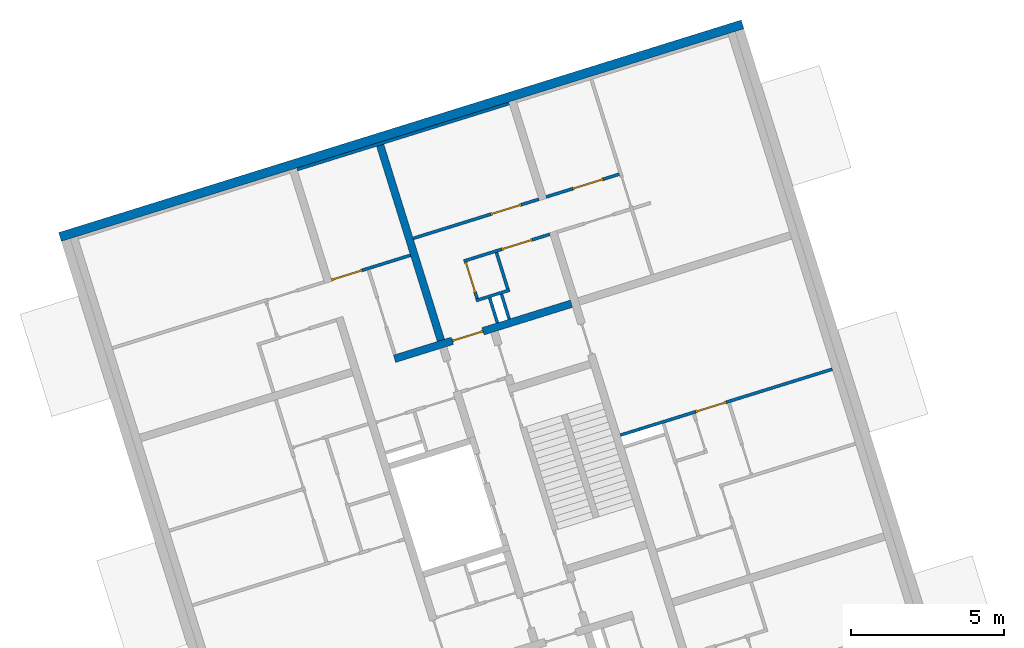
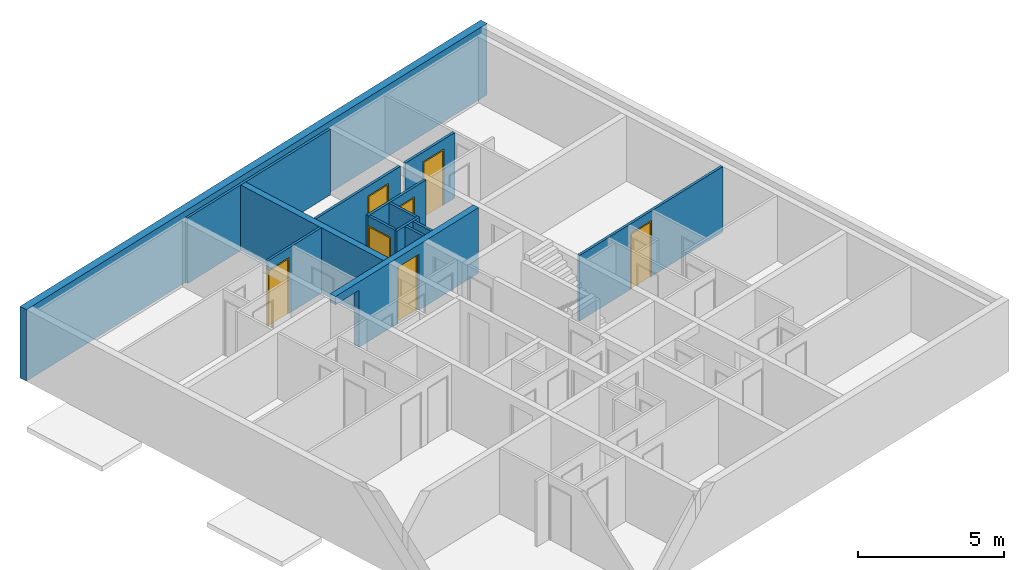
# One storey, part 6 of 9: 14 walls, 7 doors, 9 openings.
"""IFC4 building model written with IfcOpenShell, lengths in metres."""

import ifcopenshell
import ifcopenshell.guid

model = None  # the IFC model being written
_history = None  # IfcOwnerHistory: only IFC2X3 demands one
_inside = {}  # id of a spatial element -> (the spatial element, [elements in it])
_under = {}  # id of a project, library or spatial element -> (it, [spatial elements below it])
_declared = {}  # id of a project -> (the project, [libraries it declares])
_typed = {}  # id of a type object -> (the type object, [elements of that type])
_made_of = {}  # id of a material, layer set ... -> (it, [elements and type objects made of it])


def new_model(schema):
    """Start an empty IFC model of exactly this schema.

    Asked for "IFC4X3", IfcOpenShell would pick the latest addendum, in which some entities
    have other attributes; the version numbers below select the first issue.
    IFC2X3 requires an IfcOwnerHistory on every rooted entity: one is made here for all.
    """
    global model, _history
    if schema == "IFC4X3":
        model = ifcopenshell.file(schema_version=(4, 3, 0, 0))
    else:
        model = ifcopenshell.file(schema=schema)
    _inside.clear()
    _under.clear()
    _declared.clear()
    _typed.clear()
    _made_of.clear()
    _history = None
    if model.schema == "IFC2X3":
        org = make("IfcOrganization", Name="unknown")
        user = make(
            "IfcPersonAndOrganization",
            ThePerson=make("IfcPerson", FamilyName="unknown"),
            TheOrganization=org,
        )
        app = make(
            "IfcApplication",
            ApplicationDeveloper=org,
            Version="unknown",
            ApplicationFullName="unknown",
            ApplicationIdentifier="unknown",
        )
        _history = make(
            "IfcOwnerHistory",
            OwningUser=user,
            OwningApplication=app,
            ChangeAction="ADDED",
            CreationDate=0,
        )
    return model


def make(cls, **values):
    """One entity of the class cls with the attributes given. An attribute that is None is left unset."""
    return model.create_entity(
        cls, **{name: value for name, value in values.items() if value is not None}
    )


def entity(cls, *values):
    """Any entity or typed value of the class cls, its attributes in the order of the schema. None: left unset."""
    e = model.create_entity(cls)
    for i, value in enumerate(values):
        if value is not None:
            e[i] = value
    return e


def rooted(cls, **values):
    """An entity with a GlobalId (a new one), such as an element, a storey or a relation."""
    return make(cls, GlobalId=ifcopenshell.guid.new(), OwnerHistory=_history, **values)


def si_unit(unit_type, name, prefix=None):
    """IfcSIUnit, for example si_unit("LENGTHUNIT", "METRE", prefix="MILLI")."""
    return make("IfcSIUnit", UnitType=unit_type, Prefix=prefix, Name=name)


def converted_unit(unit_type, name, factor, base, dimensions=None, offset=None):
    """IfcConversionBasedUnit, such as the inch: factor (a typed value) times the base unit."""
    return make(
        "IfcConversionBasedUnit"
        if offset is None
        else "IfcConversionBasedUnitWithOffset",
        ConversionOffset=offset,
        Dimensions=None
        if dimensions is None
        else entity("IfcDimensionalExponents", *dimensions),
        UnitType=unit_type,
        Name=name,
        ConversionFactor=make(
            "IfcMeasureWithUnit", ValueComponent=factor, UnitComponent=base
        ),
    )


def assignment(units):
    """IfcUnitAssignment: the units of a project."""
    return None if units is None else make("IfcUnitAssignment", Units=units)


def point(xyz):
    """IfcCartesianPoint."""
    return None if xyz is None else make("IfcCartesianPoint", Coordinates=xyz)


def direction(xyz):
    """IfcDirection."""
    return None if xyz is None else make("IfcDirection", DirectionRatios=xyz)


def frame(location, z_axis=None, x_axis=None):
    """IfcAxis2Placement3D, a coordinate frame: its origin and axes. An axis left out is left unset."""
    return make(
        "IfcAxis2Placement3D",
        Location=point(location),
        Axis=direction(z_axis),
        RefDirection=direction(x_axis),
    )


def origin():
    """The frame at (0, 0, 0) with its axes left unset."""
    return frame((0.0, 0.0, 0.0))


def place(relative_to, where):
    """IfcLocalPlacement: puts the frame where relative to a parent placement (None: the world)."""
    return make(
        "IfcLocalPlacement", PlacementRelTo=relative_to, RelativePlacement=where
    )


def context(
    kind, dimensions, precision=None, world=None, true_north=None, identifier=None
):
    """IfcGeometricRepresentationContext, for example the 3D "Model" context."""
    return make(
        "IfcGeometricRepresentationContext",
        ContextIdentifier=identifier,
        ContextType=kind,
        CoordinateSpaceDimension=dimensions,
        Precision=precision,
        WorldCoordinateSystem=world,
        TrueNorth=true_north,
    )


def subcontext(parent, identifier, kind, view, scale=None):
    """IfcGeometricRepresentationSubContext, for example "Body" below "Model"."""
    return make(
        "IfcGeometricRepresentationSubContext",
        ContextIdentifier=identifier,
        ContextType=kind,
        ParentContext=parent,
        TargetScale=scale,
        TargetView=view,
    )


def project(units=None, contexts=None):
    """IfcProject with its units and contexts."""
    return rooted(
        "IfcProject",
        Name="project",
        RepresentationContexts=contexts,
        UnitsInContext=assignment(units),
    )


def spatial(cls, under=None, at=None, **own):
    """A site, building, storey or space (cls), placed at a placement, below another one or the project."""
    s = rooted(cls, ObjectPlacement=at, **own)
    if under is not None:
        _under.setdefault(under.id(), (under, []))[1].append(s)
    return s


def point_list(points):
    """IfcCartesianPointList2D or 3D."""
    cls = (
        "IfcCartesianPointList2D" if len(points[0]) == 2 else "IfcCartesianPointList3D"
    )
    return make(cls, CoordList=points)


def indexed_curve(points, segments=None, self_intersect=None):
    """IfcIndexedPolyCurve: lines and arcs through numbered points (the first is 1)."""
    return make(
        "IfcIndexedPolyCurve",
        Points=point_list(points),
        Segments=segments,
        SelfIntersect=self_intersect,
    )


def outline(outer, holes=None, kind="AREA"):
    """IfcArbitraryClosedProfileDef: a profile drawn as a closed curve; with holes, ...WithVoids."""
    if holes is None:
        return make("IfcArbitraryClosedProfileDef", ProfileType=kind, OuterCurve=outer)
    return make(
        "IfcArbitraryProfileDefWithVoids",
        ProfileType=kind,
        OuterCurve=outer,
        InnerCurves=holes,
    )


def extrude(swept, where, along, depth):
    """IfcExtrudedAreaSolid: the profile swept, set in the frame where, extruded along a direction by depth."""
    return make(
        "IfcExtrudedAreaSolid",
        SweptArea=swept,
        Position=where,
        ExtrudedDirection=direction(along),
        Depth=depth,
    )


def polygons(points, faces, closed=None, point_numbers=None):
    """IfcPolygonalFaceSet: a face is its outer loop, then its inner loops; points numbered from 1."""
    made = []
    for loops in faces:
        if len(loops) == 1:
            made.append(make("IfcIndexedPolygonalFace", CoordIndex=loops[0]))
        else:
            made.append(
                make(
                    "IfcIndexedPolygonalFaceWithVoids",
                    CoordIndex=loops[0],
                    InnerCoordIndices=loops[1:],
                )
            )
    return make(
        "IfcPolygonalFaceSet",
        Coordinates=point_list(points),
        Closed=closed,
        Faces=made,
        PnIndex=point_numbers,
    )


def shape(context_of_items, identifier, shape_type, items):
    """IfcShapeRepresentation: the items that make up one representation, for example the "Body"."""
    return make(
        "IfcShapeRepresentation",
        ContextOfItems=context_of_items,
        RepresentationIdentifier=identifier,
        RepresentationType=shape_type,
        Items=items,
    )


def source(mapping_origin, context_of_items, identifier, shape_type, items):
    """IfcRepresentationMap: a shape defined once, which mapped items show again and again."""
    return make(
        "IfcRepresentationMap",
        MappingOrigin=mapping_origin,
        MappedRepresentation=shape(context_of_items, identifier, shape_type, items),
    )


def transform(
    local_origin,
    x_axis=None,
    y_axis=None,
    z_axis=None,
    scale=None,
    scale2=None,
    scale3=None,
    uniform=True,
):
    """IfcCartesianTransformationOperator3D, or its non-uniform kind. x_axis, y_axis, z_axis: its Axis1, 2, 3."""
    if uniform:
        return make(
            "IfcCartesianTransformationOperator3D",
            Axis1=direction(x_axis),
            Axis2=direction(y_axis),
            LocalOrigin=point(local_origin),
            Scale=scale,
            Axis3=direction(z_axis),
        )
    return make(
        "IfcCartesianTransformationOperator3DnonUniform",
        Axis1=direction(x_axis),
        Axis2=direction(y_axis),
        LocalOrigin=point(local_origin),
        Scale=scale,
        Axis3=direction(z_axis),
        Scale2=scale2,
        Scale3=scale3,
    )


def mapped(mapping_source, mapping_target):
    """IfcMappedItem: shows the shape of a source again, moved by a transform."""
    return make(
        "IfcMappedItem", MappingSource=mapping_source, MappingTarget=mapping_target
    )


def material(Name=None, Category=None):
    """IfcMaterial."""
    return make("IfcMaterial", Name=Name, Category=Category)


def constituent(of_material, Name=None, Category=None, fraction=None):
    """IfcMaterialConstituent: one of the materials an element consists of."""
    return make(
        "IfcMaterialConstituent",
        Name=Name,
        Material=of_material,
        Fraction=fraction,
        Category=Category,
    )


def constituent_set(constituents=None, Name=None):
    """IfcMaterialConstituentSet."""
    return make(
        "IfcMaterialConstituentSet", Name=Name, MaterialConstituents=constituents
    )


def made_of(thing, what):
    """Note that an element or type object is made of a material, layer set ...; save() writes the relation."""
    if what is not None:
        _made_of.setdefault(what.id(), (what, []))[1].append(thing)
    return thing


def type_object(cls, material=None, **own):
    """A type object (cls), such as IfcWallType, which elements share."""
    return made_of(rooted(cls, **own), material)


def type_shapes(of_type, sources):
    """Give a type object the sources (RepresentationMaps) that its elements show as mapped items."""
    of_type.RepresentationMaps = sources


def element(
    cls,
    number,
    at=None,
    inside=None,
    cuts=None,
    type_object=None,
    material=None,
    context=None,
    identifier="Body",
    shape_type=None,
    held_by="IfcProductDefinitionShape",
    body=None,
    shapes=None,
    **own,
):
    """One element of the class cls, such as IfcWall. Its Tag is "e" and its number.

    at: its placement. inside: the storey or other place that contains it. cuts: it is an
    opening in that element (IfcRelVoidsElement). A single representation is given by context,
    identifier, shape_type and body (its items); several are given by shapes. held_by: the class
    of the entity that holds the representations. save() writes the other relations.
    """
    e = rooted(cls, Tag="e%d" % number, ObjectPlacement=at, **own)
    if body is not None:
        shapes = [shape(context, identifier, shape_type, body)]
    if shapes is not None:
        e.Representation = make(held_by, Representations=shapes)
    if inside is not None:
        _inside.setdefault(inside.id(), (inside, []))[1].append(e)
    if cuts is not None:
        rooted(
            "IfcRelVoidsElement", RelatingBuildingElement=cuts, RelatedOpeningElement=e
        )
    if type_object is not None:
        _typed.setdefault(type_object.id(), (type_object, []))[1].append(e)
    return made_of(e, material)


def fill(opening, filler):
    """IfcRelFillsElement: the door or window that sits in an opening."""
    return rooted(
        "IfcRelFillsElement",
        RelatingOpeningElement=opening,
        RelatedBuildingElement=filler,
    )


def aggregate(whole, parts):
    """IfcRelAggregates: a whole, such as a stair, and the parts it consists of."""
    return rooted("IfcRelAggregates", RelatingObject=whole, RelatedObjects=parts)


def save(model, path):
    """Write the relations noted so far, then the file.

    IfcRelAggregates (storeys below a building ...), IfcRelContainedInSpatialStructure (elements
    in a storey), IfcRelDefinesByType, IfcRelAssociatesMaterial and IfcRelDeclares: one each for
    every whole, place, type object, material and project.
    """
    for whole, parts in _under.values():
        aggregate(whole, parts)
    for where, things in _inside.values():
        rooted(
            "IfcRelContainedInSpatialStructure",
            RelatedElements=things,
            RelatingStructure=where,
        )
    for kind, things in _typed.values():
        rooted("IfcRelDefinesByType", RelatedObjects=things, RelatingType=kind)
    for what, things in _made_of.values():
        rooted("IfcRelAssociatesMaterial", RelatedObjects=things, RelatingMaterial=what)
    for by, libraries in _declared.values():
        rooted("IfcRelDeclares", RelatingContext=by, RelatedDefinitions=libraries)
    model.write(path)


model = new_model("IFC4")

# Units and contexts
model_context = context("Model", 3, precision=1e-05, world=origin(), true_north=direction((6.12323399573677e-17, 1.0)))
body_context = subcontext(model_context, "Body", "Model", "MODEL_VIEW")
ifc_project = project(units=[si_unit("LENGTHUNIT", "METRE"), si_unit("AREAUNIT", "SQUARE_METRE"), si_unit("VOLUMEUNIT", "CUBIC_METRE"), converted_unit("PLANEANGLEUNIT", "DEGREE", entity("IfcPlaneAngleMeasure", 0.0174532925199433), si_unit("PLANEANGLEUNIT", "RADIAN"), dimensions=[0, 0, 0, 0, 0, 0, 0])], contexts=[model_context])

# Site, building, storey
site_placement = place(None, frame((13.1347999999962, 11.9886000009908, 0.0), z_axis=(0.0, 0.0, 1.0), x_axis=(0.954770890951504, 0.297342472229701, 0.0)))
site = spatial("IfcSite", under=ifc_project, at=site_placement, Name="Schiehaven", CompositionType="ELEMENT")
building_placement = place(site_placement, origin())
building = spatial("IfcBuilding", under=site, at=building_placement, Name="VORM huis", CompositionType="ELEMENT")
storey_placement = place(building_placement, frame((0.0, 0.0, 18.9)))
storey = spatial("IfcBuildingStorey", under=building, at=storey_placement, Name="06 zesde verdieping", CompositionType="ELEMENT", Elevation=18.9)

# Wall, openings, door
ifc_material_1 = material(Name="beton_gewapend_ihw", Category="Miscellaneous")
wall_type_1 = type_object("IfcWallType", Name="Basic Wall:28_WA_skelet_wand 250mm_gen", PredefinedType="STANDARD")
wall_1_placement = place(storey_placement, frame((12.6250000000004, 22.1999999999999, 0.0)))
wall_1 = element("IfcWall", 1, at=wall_1_placement, inside=storey, type_object=wall_type_1, material=ifc_material_1, Name="Constructieve wand", ObjectType="Wand", PredefinedType="NOTDEFINED", context=body_context, shape_type="Tessellation", body=[
    polygons([(4.225, -0.124999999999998, 2.34999999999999), (4.225, -0.124999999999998, 0.0), (7.25, -0.124999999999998, 0.0), (7.25, -0.124999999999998, 2.75), (-9.32382171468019e-16, -0.124999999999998, 2.75), (1.23335208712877e-15, -0.124999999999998, 2.4), (1.2, -0.124999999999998, 2.4), (1.2, -0.124999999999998, 0.0), (3.175, -0.124999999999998, 0.0), (3.175, -0.124999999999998, 2.34999999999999), (7.25, 0.125000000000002, 0.0), (4.225, 0.125000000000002, 0.0), (4.225, 0.125000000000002, 2.34999999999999), (3.175, 0.125000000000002, 2.34999999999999), (3.175, 0.125000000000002, 0.0), (1.2, 0.124999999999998, 0.0), (1.2, 0.125000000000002, 2.4), (1.38467104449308e-15, 0.125000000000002, 2.4), (1.38467104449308e-15, 0.125000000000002, 2.75), (7.25, 0.125000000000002, 2.75)], [[[1, 2, 3, 4, 5, 6, 7, 8, 9, 10]], [[11, 12, 13, 14, 15, 16, 17, 18, 19, 20]], [[9, 8, 16, 15]], [[5, 4, 20, 19]], [[5, 19, 18, 6]], [[15, 14, 10, 9]], [[13, 12, 2, 1]], [[14, 13, 1, 10]], [[7, 17, 16, 8]], [[17, 7, 6, 18]], [[4, 3, 11, 20]], [[3, 2, 12, 11]]], closed=True),
])
opening_1_placement = place(wall_1_placement, origin())
element("IfcOpeningElement", 2, at=opening_1_placement, cuts=wall_1, Name="Constructieve wand", PredefinedType="OPENING", context=body_context, shape_type="SweptSolid", body=[
    extrude(outline(indexed_curve([(-1.2, -0.6), (1.2, -0.6), (1.2, 0.6), (-1.2, 0.6), (-1.2, -0.6)], self_intersect=False)), frame((0.599999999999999, -0.125000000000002, 1.2), z_axis=(0.0, 1.0, 0.0), x_axis=(0.0, 0.0, -1.0)), (0.0, 0.0, 1.0), 0.250000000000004),
])
opening_2_placement = place(wall_1_placement, frame((4.22500000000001, 0.124999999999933, 0.0)))
opening_2 = element("IfcOpeningElement", 3, at=opening_2_placement, cuts=wall_1, Name="Woningtoegangsdeur", PredefinedType="OPENING", context=body_context, shape_type="SweptSolid", body=[
    extrude(outline(indexed_curve([(2.34999999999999, 1.05), (0.0, 1.05), (0.0, 1.08286712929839e-15), (2.34999999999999, 1.08286712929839e-15), (2.34999999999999, 1.05)], self_intersect=False)), frame((0.0, 0.0, 0.0), z_axis=(0.0, -1.0, 0.0), x_axis=(0.0, 0.0, 1.0)), (0.0, 0.0, 1.0), 0.25),
])
ifc_material_2 = material(Name="PD_a_binnenwandopeningen", Category="Miscellaneous")
ifc_constituent_1 = constituent(ifc_material_2, Name="PD_a_binnenwandopeningen", Category="Miscellaneous")
ifc_material_3 = material(Name="metaal_aluminium_ntb", Category="Miscellaneous")
ifc_constituent_2 = constituent(ifc_material_3, Name="metaal_aluminium_ntb", Category="Miscellaneous")
ifc_constituent_set_1 = constituent_set(constituents=[ifc_constituent_1, ifc_constituent_2])
door_type_1 = type_object("IfcDoorType", Name="32_DO_binnendeur enkel:woningtoegangsdeur", OperationType="REVOLVING", PredefinedType="DOOR")
shared_shape_1 = source(origin(), body_context, "Body", "SweptSolid", [
    extrude(outline(indexed_curve([(-1.16249999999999, -0.525000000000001), (1.18749999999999, -0.525), (1.18749999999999, 0.525000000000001), (-1.16249999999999, 0.525000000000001), (-1.16249999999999, 0.475), (1.13749999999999, 0.475), (1.13749999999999, -0.475), (-1.16249999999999, -0.475), (-1.16249999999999, -0.525000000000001)], self_intersect=False)), frame((0.525000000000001, 0.0749999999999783, 1.16249999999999), z_axis=(0.0, 1.0, 0.0), x_axis=(0.0, 0.0, 1.0)), (0.0, 0.0, 1.0), 0.1),
    extrude(outline(indexed_curve([(-0.025, -0.475), (0.025, -0.475), (0.025, 0.475), (-0.025, 0.475), (-0.025, -0.475)], self_intersect=False)), frame((0.525000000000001, 0.12499999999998, 0.0), z_axis=(0.0, 0.0, 1.0), x_axis=(0.0, 1.0, 0.0)), (0.0, 0.0, 1.0), 2.29999999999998),
])
door_1_placement = place(opening_2_placement, frame((0.0, 0.0, 0.0), z_axis=(0.0, 0.0, 1.0), x_axis=(-1.0, 0.0, 0.0)))
door_1 = element("IfcDoor", 4, at=door_1_placement, inside=storey, type_object=door_type_1, material=ifc_constituent_set_1, Name="Woningtoegangsdeur", ObjectType="Deur", OperationType="REVOLVING", OverallHeight=2.34999999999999, OverallWidth=1.05, PredefinedType="DOOR", context=body_context, shape_type="MappedRepresentation", body=[
    mapped(shared_shape_1, transform((0.0, 0.0, 0.0), scale=1.0)),
])
fill(opening_2, door_1)

# Walls
ifc_material_4 = material(Name="ntb_ntb_ntb", Category="Miscellaneous")
wall_type_2 = type_object("IfcWallType", Name="Basic Wall:21_WA_gevel_binnenspouwwand 100mm_gen", PredefinedType="STANDARD")
wall_2_placement = place(storey_placement, frame((19.875, 29.05, 0.0), z_axis=(0.0, 0.0, 1.0), x_axis=(-1.0, 0.0, 0.0)))
element("IfcWall", 5, at=wall_2_placement, inside=storey, type_object=wall_type_2, material=ifc_material_4, Name="Binnenspouwblad", ObjectType="Wand", PredefinedType="NOTDEFINED", context=body_context, shape_type="SweptSolid", body=[
    extrude(outline(indexed_curve([(7.24999999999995, 0.0500000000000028), (-8.07179175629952e-18, 0.0500000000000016), (8.07179175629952e-18, -0.0500000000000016), (7.24999999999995, -0.0500000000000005), (7.24999999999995, 0.0500000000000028)], self_intersect=False)), origin(), (0.0, 0.0, 1.0), 2.75),
])
wall_type_3 = type_object("IfcWallType", Name="Basic Wall: 300mm_gen", PredefinedType="STANDARD")
wall_3_placement = place(storey_placement, frame((4.57500000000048, 29.25, 0.0)))
element("IfcWall", 6, at=wall_3_placement, inside=storey, type_object=wall_type_3, material=ifc_material_4, Name="Gevelwand", ObjectType="Wand", PredefinedType="NOTDEFINED", context=body_context, shape_type="SweptSolid", body=[
    extrude(outline(indexed_curve([(23.35, 0.149999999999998), (-1.57429718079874e-16, 0.150000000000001), (1.57429718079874e-16, -0.150000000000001), (23.35, -0.150000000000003), (23.35, 0.149999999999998)], self_intersect=False)), origin(), (0.0, 0.0, 1.0), 3.0),
])
wall_type_4 = type_object("IfcWallType", Name="Basic Wall:22_WA_afbouw_binnenwand 250mm_gen", PredefinedType="STANDARD")
wall_4_placement = place(storey_placement, frame((15.4500000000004, 22.3249999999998, 0.0), z_axis=(0.0, 0.0, 1.0), x_axis=(0.0, 1.0, 0.0)))
element("IfcWall", 7, at=wall_4_placement, inside=storey, type_object=wall_type_4, material=ifc_material_4, Name="Binnenwand", ObjectType="Wand", PredefinedType="NOTDEFINED", context=body_context, shape_type="SweptSolid", body=[
    extrude(outline(indexed_curve([(6.67500000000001, 0.124999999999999), (2.02524027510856e-15, 0.125), (-2.02524027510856e-15, -0.125), (6.67500000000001, -0.125), (6.67500000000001, 0.124999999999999)], self_intersect=False)), origin(), (0.0, 0.0, 1.0), 2.75),
])

# Wall, opening, door
wall_type_5 = type_object("IfcWallType", Name="Basic Wall:22_WA_afbouw_binnenwand 100mm_gen", PredefinedType="STANDARD")
wall_5_placement = place(storey_placement, frame((19.8750000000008, 25.7750000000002, 0.0), z_axis=(0.0, 0.0, 1.0), x_axis=(-1.0, 0.0, 0.0)))
wall_5 = element("IfcWall", 8, at=wall_5_placement, inside=storey, type_object=wall_type_5, material=ifc_material_4, Name="Binnenwand", ObjectType="Wand", PredefinedType="NOTDEFINED", context=body_context, shape_type="Tessellation", body=[
    polygons([(1.41600119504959e-15, -0.0499999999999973, 2.16573425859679e-15), (0.599999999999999, -0.0499999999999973, 2.16573425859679e-15), (0.600000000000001, -0.0499999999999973, 2.34999999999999), (1.65, -0.0500000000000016, 2.34999999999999), (1.65, -0.0500000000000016, 2.16573425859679e-15), (4.30000000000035, -0.0500000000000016, 2.16573425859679e-15), (4.30000000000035, -0.0500000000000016, 2.75), (1.41600119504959e-15, -0.0499999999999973, 2.75), (0.600000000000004, 0.0500000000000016, 2.34999999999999), (0.600000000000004, 0.0500000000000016, 2.16573425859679e-15), (-3.19070089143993e-17, 0.0500000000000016, 2.16573425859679e-15), (-3.19070089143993e-17, 0.0500000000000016, 2.75), (4.30000000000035, 0.0499999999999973, 2.75), (4.30000000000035, 0.0499999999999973, 2.16573425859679e-15), (1.65, 0.0499999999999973, 2.16573425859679e-15), (1.65, 0.0499999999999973, 2.34999999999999)], [[[1, 2, 3, 4, 5, 6, 7, 8]], [[9, 10, 11, 12, 13, 14, 15, 16]], [[11, 10, 2, 1]], [[7, 6, 14, 13]], [[8, 7, 13, 12]], [[1, 8, 12, 11]], [[5, 4, 16, 15]], [[3, 2, 10, 9]], [[4, 3, 9, 16]], [[15, 14, 6, 5]]], closed=True),
])
opening_3_placement = place(wall_5_placement, frame((0.599999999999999, -0.0500000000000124, 0.0)))
opening_3 = element("IfcOpeningElement", 9, at=opening_3_placement, cuts=wall_5, Name="Binnendeur", PredefinedType="OPENING", context=body_context, shape_type="SweptSolid", body=[
    extrude(outline(indexed_curve([(2.34999999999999, 1.05), (0.0, 1.05), (0.0, 1.35358391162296e-15), (2.34999999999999, 1.35358391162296e-15), (2.34999999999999, 1.05)], self_intersect=False)), frame((0.0, 0.0, 0.0), z_axis=(0.0, 1.0, 0.0), x_axis=(0.0, 0.0, 1.0)), (0.0, 0.0, 1.0), 0.1),
])
ifc_constituent_3 = constituent(ifc_material_2, Name="PD_a_binnenwandopeningen", Category="Miscellaneous")
ifc_constituent_4 = constituent(ifc_material_3, Name="metaal_aluminium_ntb", Category="Miscellaneous")
ifc_constituent_set_2 = constituent_set(constituents=[ifc_constituent_3, ifc_constituent_4])
door_type_2 = type_object("IfcDoorType", Name="32_DO_binnendeur enkel:binnendeur", OperationType="REVOLVING", PredefinedType="DOOR")
shared_shape_2 = source(origin(), body_context, "Body", "SweptSolid", [
    extrude(outline(indexed_curve([(-1.16249999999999, -0.525000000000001), (1.18749999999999, -0.525), (1.18749999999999, 0.525), (-1.16249999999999, 0.525), (-1.16249999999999, 0.475), (1.13749999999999, 0.475), (1.13749999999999, -0.475), (-1.16249999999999, -0.475), (-1.16249999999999, -0.525000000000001)], self_intersect=False)), frame((0.525000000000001, 0.0, 1.16249999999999), z_axis=(0.0, 1.0, 0.0), x_axis=(0.0, 0.0, 1.0)), (0.0, 0.0, 1.0), 0.1),
    extrude(outline(indexed_curve([(-0.025, -0.475), (0.025, -0.475), (0.025, 0.475), (-0.025, 0.475), (-0.025, -0.475)], self_intersect=False)), frame((0.525000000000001, 0.0499999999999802, 0.0), z_axis=(0.0, 0.0, 1.0), x_axis=(0.0, 1.0, 0.0)), (0.0, 0.0, 1.0), 2.29999999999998),
])
type_shapes(door_type_2, [shared_shape_2])
door_2_placement = place(opening_3_placement, origin())
door_2 = element("IfcDoor", 10, at=door_2_placement, inside=storey, type_object=door_type_2, material=ifc_constituent_set_2, Name="Binnendeur", ObjectType="Deur", OperationType="REVOLVING", OverallHeight=2.34999999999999, OverallWidth=1.05, PredefinedType="DOOR", context=body_context, shape_type="MappedRepresentation", body=[
    mapped(shared_shape_2, transform((0.0, 0.0, 0.0), scale=1.0)),
])
fill(opening_3, door_2)

# Wall, openings, door
wall_6_placement = place(storey_placement, frame((19.8750000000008, 24.5750000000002, 0.0), z_axis=(0.0, 0.0, 1.0), x_axis=(-1.0, 0.0, 0.0)))
wall_6 = element("IfcWall", 11, at=wall_6_placement, inside=storey, type_object=wall_type_5, material=ifc_material_4, Name="Binnenwand", ObjectType="Wand", PredefinedType="NOTDEFINED", context=body_context, shape_type="Tessellation", body=[
    polygons([(1.65, -0.0500000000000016, 2.34999999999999), (1.65, -0.0500000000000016, 2.16573425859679e-15), (2.94100000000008, -0.0500000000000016, 2.16573425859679e-15), (2.94100000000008, -0.0500000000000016, 2.75), (1.36697681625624e-15, -0.0499999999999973, 2.75), (1.36697681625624e-15, -0.0499999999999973, 2.16573425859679e-15), (0.599999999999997, -0.0499999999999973, 2.16573425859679e-15), (0.599999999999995, -0.0499999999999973, 2.34999999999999), (2.94100000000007, 0.0499999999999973, 2.16573425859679e-15), (1.89100000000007, 0.0499999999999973, 2.16573425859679e-15), (1.79100000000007, 0.0500000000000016, 2.16573425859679e-15), (1.65, 0.0499999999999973, 2.16573425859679e-15), (1.65, 0.0499999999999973, 2.34999999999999), (0.6, 0.0500000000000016, 2.34999999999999), (0.6, 0.0500000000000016, 2.16573425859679e-15), (-8.09313877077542e-17, 0.0500000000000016, 2.16573425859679e-15), (-8.09313877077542e-17, 0.0500000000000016, 2.75), (1.79100000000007, 0.0500000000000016, 2.75), (1.89100000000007, 0.0499999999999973, 2.75), (2.84100000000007, 0.0499999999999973, 2.75), (2.94100000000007, 0.0499999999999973, 2.75), (2.94100000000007, 0.0499999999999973, 2.34999999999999)], [[[1, 2, 3, 4, 5, 6, 7, 8]], [[9, 10, 11, 12, 13, 14, 15, 16, 17, 18, 19, 20, 21, 22]], [[7, 6, 16, 15]], [[5, 4, 21, 20, 19, 18, 17]], [[6, 5, 17, 16]], [[15, 14, 8, 7]], [[13, 12, 2, 1]], [[14, 13, 1, 8]], [[4, 3, 9, 22, 21]], [[3, 2, 12, 11, 10, 9]]], closed=True),
])
opening_4_placement = place(wall_6_placement, origin())
element("IfcOpeningElement", 12, at=opening_4_placement, cuts=wall_6, Name="Binnendeur", PredefinedType="OPENING", context=body_context, shape_type="SweptSolid", body=[
    extrude(outline(indexed_curve([(-0.0499999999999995, -1.17499999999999), (0.0500000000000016, -1.17499999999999), (0.0500000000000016, 1.17499999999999), (-0.0499999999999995, 1.17499999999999), (-0.0499999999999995, -1.17499999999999)], self_intersect=False)), frame((2.89100000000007, 0.0499999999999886, 1.17499999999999), z_axis=(0.0, 1.0, 0.0), x_axis=(-1.0, 0.0, 0.0)), (0.0, 0.0, 1.0), 1.05),
])
opening_5_placement = place(wall_6_placement, frame((1.65, 0.0499999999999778, 0.0)))
opening_5 = element("IfcOpeningElement", 13, at=opening_5_placement, cuts=wall_6, Name="Binnendeur", PredefinedType="OPENING", context=body_context, shape_type="SweptSolid", body=[
    extrude(outline(indexed_curve([(2.34999999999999, 1.05), (0.0, 1.05), (0.0, 1.35358391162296e-15), (2.34999999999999, 1.35358391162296e-15), (2.34999999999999, 1.05)], self_intersect=False)), frame((0.0, 0.0, 0.0), z_axis=(0.0, -1.0, 0.0), x_axis=(0.0, 0.0, 1.0)), (0.0, 0.0, 1.0), 0.1),
])
ifc_constituent_5 = constituent(ifc_material_2, Name="PD_a_binnenwandopeningen", Category="Miscellaneous")
ifc_constituent_6 = constituent(ifc_material_3, Name="metaal_aluminium_ntb", Category="Miscellaneous")
ifc_constituent_set_3 = constituent_set(constituents=[ifc_constituent_5, ifc_constituent_6])
door_3_placement = place(opening_5_placement, frame((0.0, 0.0, 0.0), z_axis=(0.0, 0.0, 1.0), x_axis=(-1.0, 0.0, 0.0)))
door_3 = element("IfcDoor", 14, at=door_3_placement, inside=storey, type_object=door_type_2, material=ifc_constituent_set_3, Name="Binnendeur", ObjectType="Deur", OperationType="REVOLVING", OverallHeight=2.34999999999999, OverallWidth=1.05, PredefinedType="DOOR", context=body_context, shape_type="MappedRepresentation", body=[
    mapped(shared_shape_2, transform((0.0, 0.0, 0.0), scale=1.0)),
])
fill(opening_5, door_3)

# Wall, opening, door
wall_7_placement = place(storey_placement, frame((16.9840000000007, 24.5250000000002, 0.0), z_axis=(0.0, 0.0, 1.0), x_axis=(0.0, -1.0, 0.0)))
wall_7 = element("IfcWall", 15, at=wall_7_placement, inside=storey, type_object=wall_type_5, material=ifc_material_4, Name="Binnenwand", ObjectType="Wand", PredefinedType="NOTDEFINED", context=body_context, shape_type="Tessellation", body=[
    polygons([(1.24999999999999, -0.0500000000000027, 2.75), (0.0, -0.0500000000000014, 2.75), (0.0, -0.0500000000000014, 2.34999999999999), (1.05, -0.050000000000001, 2.34999999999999), (1.05, -0.050000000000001, 2.16573425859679e-15), (1.24999999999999, -0.0500000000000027, 2.16573425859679e-15), (0.0, 0.0499999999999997, 2.75), (1.25, 0.0500000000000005, 2.75), (1.25, 0.0500000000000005, 2.16573425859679e-15), (1.05, 0.0500000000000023, 2.16573425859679e-15), (1.05, 0.0500000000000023, 2.34999999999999), (0.0, 0.0499999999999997, 2.34999999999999)], [[[1, 2, 3, 4, 5, 6]], [[7, 8, 9, 10, 11, 12]], [[9, 6, 5, 10]], [[2, 1, 8, 7]], [[4, 11, 10, 5]], [[11, 4, 3, 12]], [[1, 6, 9, 8]], [[2, 7, 12, 3]]], closed=True),
])
opening_6_placement = place(wall_7_placement, frame((1.05, 0.0499999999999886, 0.0)))
opening_6 = element("IfcOpeningElement", 16, at=opening_6_placement, cuts=wall_7, Name="Binnendeur", PredefinedType="OPENING", context=body_context, shape_type="SweptSolid", body=[
    extrude(outline(indexed_curve([(2.34999999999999, 1.05), (0.0, 1.05), (0.0, 0.0), (2.34999999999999, 0.0), (2.34999999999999, 1.05)], self_intersect=False)), frame((0.0, 0.0, 0.0), z_axis=(0.0, -1.0, 0.0), x_axis=(0.0, 0.0, 1.0)), (0.0, 0.0, 1.0), 0.1),
])
ifc_constituent_7 = constituent(ifc_material_2, Name="PD_a_binnenwandopeningen", Category="Miscellaneous")
ifc_constituent_8 = constituent(ifc_material_3, Name="metaal_aluminium_ntb", Category="Miscellaneous")
ifc_constituent_set_4 = constituent_set(constituents=[ifc_constituent_7, ifc_constituent_8])
door_4_placement = place(opening_6_placement, frame((0.0, 0.0, 0.0), z_axis=(0.0, 0.0, 1.0), x_axis=(-1.0, 0.0, 0.0)))
door_4 = element("IfcDoor", 17, at=door_4_placement, inside=storey, type_object=door_type_2, material=ifc_constituent_set_4, Name="Binnendeur", ObjectType="Deur", OperationType="REVOLVING", OverallHeight=2.34999999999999, OverallWidth=1.05, PredefinedType="DOOR", context=body_context, shape_type="MappedRepresentation", body=[
    mapped(shared_shape_2, transform((0.0, 0.0, 0.0), scale=1.0)),
])
fill(opening_6, door_4)

# Walls
wall_8_placement = place(storey_placement, frame((18.0840000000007, 23.2250000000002, 0.0), z_axis=(0.0, 0.0, 1.0), x_axis=(-1.0, 0.0, 0.0)))
element("IfcWall", 18, at=wall_8_placement, inside=storey, type_object=wall_type_5, material=ifc_material_4, Name="Binnenwand", ObjectType="Wand", PredefinedType="NOTDEFINED", context=body_context, shape_type="SweptSolid", body=[
    extrude(outline(indexed_curve([(1.15000000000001, 0.050000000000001), (-7.23954101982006e-16, 0.0500000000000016), (7.23954101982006e-16, -0.0500000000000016), (1.15000000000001, -0.0500000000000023), (1.15000000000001, 0.050000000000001)], self_intersect=False)), origin(), (0.0, 0.0, 1.0), 2.75),
])
wall_9_placement = place(storey_placement, frame((18.0340000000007, 23.2750000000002, 0.0), z_axis=(0.0, 0.0, 1.0), x_axis=(0.0, 1.0, 0.0)))
element("IfcWall", 19, at=wall_9_placement, inside=storey, type_object=wall_type_5, material=ifc_material_4, Name="Binnenwand", ObjectType="Wand", PredefinedType="NOTDEFINED", context=body_context, shape_type="SweptSolid", body=[
    extrude(outline(indexed_curve([(1.25, 0.049999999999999), (-6.72839576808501e-16, 0.0499999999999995), (6.72839576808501e-16, -0.0499999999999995), (1.25, -0.05), (1.25, 0.049999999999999)], self_intersect=False)), origin(), (0.0, 0.0, 1.0), 2.75),
])
wall_10_placement = place(storey_placement, frame((17.3840000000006, 22.3250000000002, 0.0), z_axis=(0.0, 0.0, 1.0), x_axis=(0.0, 1.0, 0.0)))
element("IfcWall", 20, at=wall_10_placement, inside=storey, type_object=wall_type_5, material=ifc_material_4, Name="Binnenwand", ObjectType="Wand", PredefinedType="NOTDEFINED", context=body_context, shape_type="SweptSolid", body=[
    extrude(outline(indexed_curve([(0.85000000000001, 0.0500000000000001), (-6.72839576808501e-16, 0.0499999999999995), (6.72839576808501e-16, -0.0499999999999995), (0.850000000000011, -0.0499999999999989), (0.85000000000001, 0.0500000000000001)], self_intersect=False)), origin(), (0.0, 0.0, 1.0), 2.75),
])

# Wall, opening, door
wall_11_placement = place(storey_placement, frame((20.1250000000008, 25.7750000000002, 0.0)))
wall_11 = element("IfcWall", 21, at=wall_11_placement, inside=storey, type_object=wall_type_5, material=ifc_material_4, Name="Binnenwand", ObjectType="Wand", PredefinedType="NOTDEFINED", context=body_context, shape_type="Tessellation", body=[
    polygons([(-4.45664919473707e-16, -0.0499999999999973, 2.16573425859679e-15), (0.899999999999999, -0.049999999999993, 2.16573425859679e-15), (0.899999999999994, -0.049999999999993, 2.34999999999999), (1.95, -0.0499999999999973, 2.34999999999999), (1.95, -0.0499999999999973, 2.16573425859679e-15), (2.5, -0.049999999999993, 2.16573425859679e-15), (2.5, -0.049999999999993, 2.75), (-4.45664919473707e-16, -0.0499999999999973, 2.75), (0.899999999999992, 0.050000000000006, 2.34999999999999), (0.899999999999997, 0.050000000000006, 2.16573425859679e-15), (-2.31636917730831e-15, 0.0500000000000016, 2.16573425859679e-15), (-2.31636917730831e-15, 0.0500000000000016, 2.75), (2.50000000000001, 0.050000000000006, 2.75), (2.50000000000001, 0.050000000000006, 2.16573425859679e-15), (1.95, 0.0500000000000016, 2.16573425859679e-15), (1.95, 0.0500000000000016, 2.34999999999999)], [[[1, 2, 3, 4, 5, 6, 7, 8]], [[9, 10, 11, 12, 13, 14, 15, 16]], [[11, 10, 2, 1]], [[8, 7, 13, 12]], [[1, 8, 12, 11]], [[5, 4, 16, 15]], [[3, 2, 10, 9]], [[4, 3, 9, 16]], [[7, 6, 14, 13]], [[15, 14, 6, 5]]], closed=True),
])
opening_7_placement = place(wall_11_placement, frame((1.95, 0.049999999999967, 0.0)))
opening_7 = element("IfcOpeningElement", 22, at=opening_7_placement, cuts=wall_11, Name="Binnendeur", PredefinedType="OPENING", context=body_context, shape_type="SweptSolid", body=[
    extrude(outline(indexed_curve([(2.34999999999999, 0.0), (2.34999999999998, 1.05), (0.0, 1.05), (2.16573425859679e-15, 0.0), (2.34999999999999, 0.0)], self_intersect=False)), frame((0.0, 0.0, 0.0), z_axis=(0.0, -1.0, 0.0), x_axis=(0.0, 0.0, 1.0)), (0.0, 0.0, 1.0), 0.1),
])
ifc_constituent_9 = constituent(ifc_material_2, Name="PD_a_binnenwandopeningen", Category="Miscellaneous")
ifc_constituent_10 = constituent(ifc_material_3, Name="metaal_aluminium_ntb", Category="Miscellaneous")
ifc_constituent_set_5 = constituent_set(constituents=[ifc_constituent_9, ifc_constituent_10])
shared_shape_3 = source(origin(), body_context, "Body", "SweptSolid", [
    extrude(outline(indexed_curve([(0.475, -1.16249999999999), (0.525, -1.16249999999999), (0.525, 1.18749999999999), (-0.525, 1.18749999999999), (-0.525, -1.16249999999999), (-0.475, -1.16249999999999), (-0.475, 1.13749999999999), (0.475, 1.13749999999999), (0.475, -1.16249999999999)], self_intersect=False)), frame((0.525000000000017, 0.100000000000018, 1.16249999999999), z_axis=(0.0, -1.0, 0.0), x_axis=(1.0, 0.0, 0.0)), (0.0, 0.0, 1.0), 0.1),
    extrude(outline(indexed_curve([(-0.475, -0.025), (0.475, -0.025), (0.475, 0.025), (-0.475, 0.025), (-0.475, -0.025)], self_intersect=False)), frame((0.525000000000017, 0.0499999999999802, 0.0)), (0.0, 0.0, 1.0), 2.29999999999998),
])
door_5_placement = place(opening_7_placement, frame((0.0, 0.0, 0.0), z_axis=(0.0, 0.0, 1.0), x_axis=(-1.0, 0.0, 0.0)))
door_5 = element("IfcDoor", 23, at=door_5_placement, inside=storey, type_object=door_type_2, material=ifc_constituent_set_5, Name="Binnendeur", ObjectType="Deur", OperationType="REVOLVING", OverallHeight=2.34999999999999, OverallWidth=1.05, PredefinedType="DOOR", context=body_context, shape_type="MappedRepresentation", body=[
    mapped(shared_shape_3, transform((0.0, 0.0, 0.0), scale=1.0)),
])
fill(opening_7, door_5)

# Wall
wall_12_placement = place(storey_placement, frame((17.7840000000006, 22.3250000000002, 0.0), z_axis=(0.0, 0.0, 1.0), x_axis=(0.0, 1.0, 0.0)))
element("IfcWall", 24, at=wall_12_placement, inside=storey, type_object=wall_type_5, material=ifc_material_4, Name="Binnenwand", ObjectType="Wand", PredefinedType="NOTDEFINED", context=body_context, shape_type="SweptSolid", body=[
    extrude(outline(indexed_curve([(0.850000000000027, 0.0500000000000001), (-6.72839576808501e-16, 0.0499999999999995), (6.72839576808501e-16, -0.0499999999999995), (0.850000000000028, -0.0499999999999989), (0.850000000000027, 0.0500000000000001)], self_intersect=False)), origin(), (0.0, 0.0, 1.0), 2.75),
])

# Wall, opening, door
wall_13_placement = place(storey_placement, frame((20.1228357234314, 17.625, 0.0)))
wall_13 = element("IfcWall", 25, at=wall_13_placement, inside=storey, type_object=wall_type_5, material=ifc_material_4, Name="Binnenwand", ObjectType="Wand", PredefinedType="NOTDEFINED", context=body_context, shape_type="Tessellation", body=[
    polygons([(-1.21241354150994e-15, -0.0500000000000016, 2.16573425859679e-15), (1.40216427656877, -0.0500000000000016, 2.16573425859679e-15), (1.50216427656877, -0.0499999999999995, 2.16573425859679e-15), (2.45216427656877, -0.0500000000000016, 2.16573425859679e-15), (2.55216427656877, -0.0500000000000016, 2.16573425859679e-15), (2.57716427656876, -0.0500000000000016, 2.16573425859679e-15), (2.57716427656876, -0.0500000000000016, 2.34999999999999), (3.62716427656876, -0.0500000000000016, 2.34999999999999), (3.62716427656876, -0.0500000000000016, 2.16573425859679e-15), (3.65216427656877, -0.0500000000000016, 2.16573425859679e-15), (3.75216427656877, -0.0499999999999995, 2.16573425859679e-15), (7.25216427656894, -0.0499999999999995, 2.16573425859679e-15), (7.25216427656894, -0.0499999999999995, 2.75), (3.75216427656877, -0.0499999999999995, 2.75), (3.65216427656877, -0.0500000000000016, 2.75), (2.55216427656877, -0.0500000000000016, 2.75), (2.45216427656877, -0.0500000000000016, 2.75), (1.50216427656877, -0.0499999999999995, 2.75), (1.40216427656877, -0.0500000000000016, 2.75), (-1.21241354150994e-15, -0.0500000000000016, 2.75), (2.57716427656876, 0.0499999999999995, 2.34999999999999), (2.57716427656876, 0.0499999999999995, 2.16573425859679e-15), (-1.5889964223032e-15, 0.0499999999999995, 2.16573425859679e-15), (-1.5889964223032e-15, 0.0499999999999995, 2.75), (7.25216427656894, 0.0500000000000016, 2.75), (7.25216427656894, 0.0500000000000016, 2.16573425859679e-15), (3.62716427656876, 0.0500000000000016, 2.16573425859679e-15), (3.62716427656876, 0.0500000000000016, 2.34999999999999)], [[[1, 2, 3, 4, 5, 6, 7, 8, 9, 10, 11, 12, 13, 14, 15, 16, 17, 18, 19, 20]], [[21, 22, 23, 24, 25, 26, 27, 28]], [[23, 22, 6, 5, 4, 3, 2, 1]], [[13, 12, 26, 25]], [[20, 19, 18, 17, 16, 15, 14, 13, 25, 24]], [[1, 20, 24, 23]], [[9, 8, 28, 27]], [[7, 6, 22, 21]], [[8, 7, 21, 28]], [[27, 26, 12, 11, 10, 9]]], closed=True),
])
opening_8_placement = place(wall_13_placement, frame((2.57716427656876, -0.0500000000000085, 0.0)))
opening_8 = element("IfcOpeningElement", 26, at=opening_8_placement, cuts=wall_13, Name="Binnendeur", PredefinedType="OPENING", context=body_context, shape_type="SweptSolid", body=[
    extrude(outline(indexed_curve([(2.34999999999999, 1.05), (0.0, 1.05), (0.0, -1.4336339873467e-30), (2.34999999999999, -1.4336339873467e-30), (2.34999999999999, 1.05)], self_intersect=False)), frame((0.0, 0.0, 0.0), z_axis=(0.0, 1.0, 0.0), x_axis=(0.0, 0.0, 1.0)), (0.0, 0.0, 1.0), 0.1),
])
ifc_constituent_11 = constituent(ifc_material_2, Name="PD_a_binnenwandopeningen", Category="Miscellaneous")
ifc_constituent_12 = constituent(ifc_material_3, Name="metaal_aluminium_ntb", Category="Miscellaneous")
ifc_constituent_set_6 = constituent_set(constituents=[ifc_constituent_11, ifc_constituent_12])
door_6_placement = place(opening_8_placement, origin())
door_6 = element("IfcDoor", 27, at=door_6_placement, inside=storey, type_object=door_type_2, material=ifc_constituent_set_6, Name="Binnendeur", ObjectType="Deur", OperationType="REVOLVING", OverallHeight=2.34999999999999, OverallWidth=1.05, PredefinedType="DOOR", context=body_context, shape_type="MappedRepresentation", body=[
    mapped(shared_shape_2, transform((0.0, 0.0, 0.0), scale=1.0)),
])
fill(opening_8, door_6)

wall_14_placement = place(storey_placement, frame((15.3250000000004, 25.2750000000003, 0.0), z_axis=(0.0, 0.0, 1.0), x_axis=(-1.0, 0.0, 0.0)))
wall_14 = element("IfcWall", 28, at=wall_14_placement, inside=storey, type_object=wall_type_5, material=ifc_material_4, Name="Binnenwand", ObjectType="Wand", PredefinedType="NOTDEFINED", context=body_context, shape_type="Tessellation", body=[
    polygons([(2.69999999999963, -0.049999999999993, 2.75), (5.14203627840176e-16, -0.0499999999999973, 2.75), (5.14203627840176e-16, -0.0499999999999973, 2.16573425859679e-15), (1.64999999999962, -0.0499999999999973, 2.16573425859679e-15), (1.64999999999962, -0.0499999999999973, 2.34999999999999), (2.69999999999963, -0.049999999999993, 2.34999999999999), (2.04309701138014e-16, 0.0500000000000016, 2.75), (1.39999999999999, 0.0500000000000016, 2.75), (1.49999999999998, 0.0500000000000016, 2.75), (2.69999999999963, 0.050000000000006, 2.75), (2.69999999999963, 0.050000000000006, 2.34999999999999), (1.64999999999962, 0.0500000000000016, 2.34999999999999), (1.64999999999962, 0.0500000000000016, 2.16573425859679e-15), (1.49999999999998, 0.0500000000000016, 2.16573425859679e-15), (1.39999999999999, 0.0500000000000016, 2.16573425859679e-15), (2.04309701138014e-16, 0.0500000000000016, 2.16573425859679e-15)], [[[1, 2, 3, 4, 5, 6]], [[7, 8, 9, 10, 11, 12, 13, 14, 15, 16]], [[3, 16, 15, 14, 13, 4]], [[10, 1, 6, 11]], [[2, 1, 10, 9, 8, 7]], [[3, 2, 7, 16]], [[12, 5, 4, 13]], [[5, 12, 11, 6]]], closed=True),
])
opening_9_placement = place(wall_14_placement, frame((1.64999999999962, -0.050000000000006, 0.0)))
opening_9 = element("IfcOpeningElement", 29, at=opening_9_placement, cuts=wall_14, Name="Binnendeur", PredefinedType="OPENING", context=body_context, shape_type="SweptSolid", body=[
    extrude(outline(indexed_curve([(2.34999999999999, 1.05), (0.0, 1.05), (0.0, 1.35358391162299e-15), (2.34999999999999, 1.35358391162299e-15), (2.34999999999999, 1.05)], self_intersect=False)), frame((0.0, 0.0, 0.0), z_axis=(0.0, 1.0, 0.0), x_axis=(0.0, 0.0, 1.0)), (0.0, 0.0, 1.0), 0.1),
])
ifc_constituent_13 = constituent(ifc_material_2, Name="PD_a_binnenwandopeningen", Category="Miscellaneous")
ifc_constituent_14 = constituent(ifc_material_3, Name="metaal_aluminium_ntb", Category="Miscellaneous")
ifc_constituent_set_7 = constituent_set(constituents=[ifc_constituent_13, ifc_constituent_14])
door_7_placement = place(opening_9_placement, origin())
door_7 = element("IfcDoor", 30, at=door_7_placement, inside=storey, type_object=door_type_2, material=ifc_constituent_set_7, Name="Binnendeur", ObjectType="Deur", OperationType="REVOLVING", OverallHeight=2.34999999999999, OverallWidth=1.05, PredefinedType="DOOR", context=body_context, shape_type="MappedRepresentation", body=[
    mapped(shared_shape_2, transform((0.0, 0.0, 0.0), scale=1.0)),
])
fill(opening_9, door_7)

save(model, "model.ifc")
